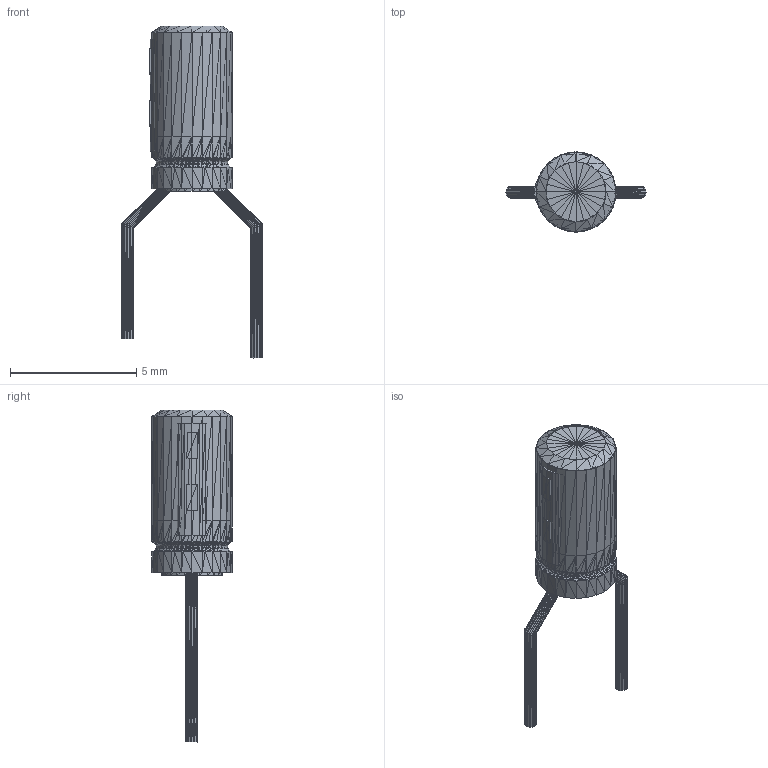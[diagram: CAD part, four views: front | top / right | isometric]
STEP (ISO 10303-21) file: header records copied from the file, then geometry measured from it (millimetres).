
FILE_DESCRIPTION(('HOOPS Exchange Step'),'2;1');
FILE_NAME('***.stp');
FILE_SCHEMA( ('AP242_MANAGED_MODEL_BASED_3D_ENGINEERING_MIM_LF {1 0 10303 442 1 1 4 }') );
Length unit declared in the file: inch
Products named in the file (13): CAPOLV125X250MIL_2; CAPOLV125X250MIL_3; CAPOLV125X250MIL_4; CAPOLV125X250MIL_5; CAPOLV125X250MIL_6; CAPOLV125X250MIL_7; CAPOLV125X250MIL_8; CAPOLV125X250MIL_9; CAPOLV125X250MIL_10; CAPOLV125X250MIL_11; CAPOLV125X250MIL_12; CAPOLV125X250MIL_13; CAPOLV125X250MIL
Assembly tree (12 placements, depth 2):
  CAPOLV125X250MIL
    CAPOLV125X250MIL_2
    CAPOLV125X250MIL_3
    CAPOLV125X250MIL_4
    CAPOLV125X250MIL_5
    CAPOLV125X250MIL_6
    CAPOLV125X250MIL_7
    CAPOLV125X250MIL_8
    CAPOLV125X250MIL_9
    CAPOLV125X250MIL_10
    CAPOLV125X250MIL_11
    CAPOLV125X250MIL_12
    CAPOLV125X250MIL_13
Bounding box: 5.56 x 3.18 x 13.16 mm (x, y, z)
Volume: 59.1 mm3; surface area: 174.2 mm2
Topology: 12 solids, 12 shells, 2196 faces, 3294 edges, 1120 vertices
Faces by surface type: plane 2196
Entity records: 43426 total; most frequent: DIRECTION 7738, CARTESIAN_POINT 6636, ORIENTED_EDGE 6588, VECTOR 3294, LINE 3294, EDGE_CURVE 3294, AXIS2_PLACEMENT_3D 2222, PLANE 2196
